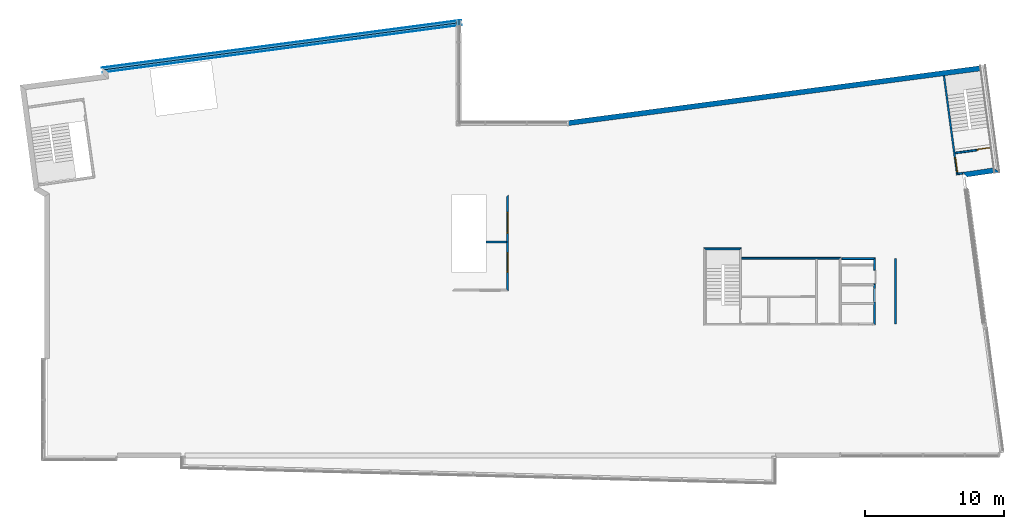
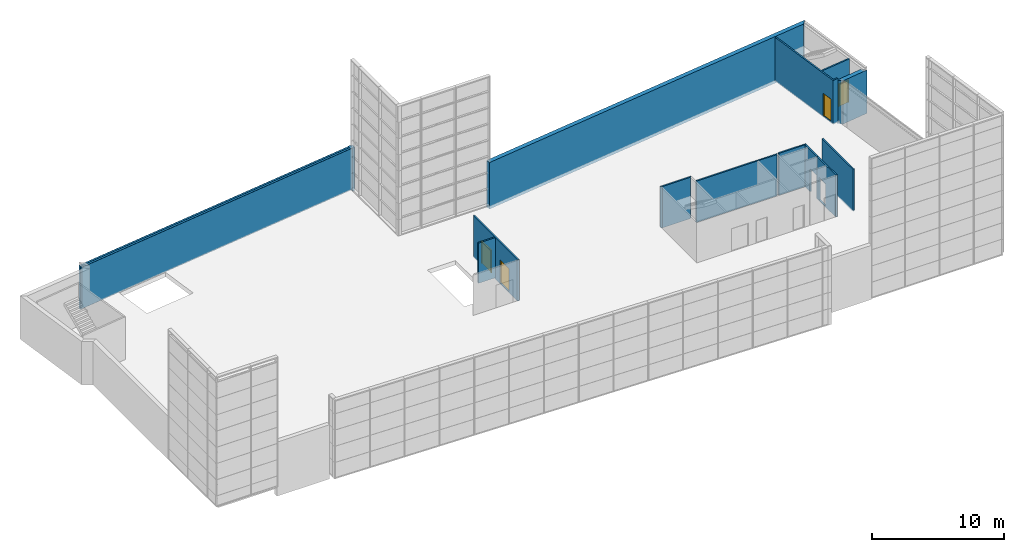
# One storey, part 20 of 27: 13 walls, 6 building element parts, 4 doors, 6 openings, 2 elements without a shape of their own.
"""IFC2X3 building model written with IfcOpenShell, lengths in metres."""

from ifc_helpers import new_model, entity, si_unit, converted_unit, money_unit, direction, frame, origin_with_axes, origin_2d_with_axis, place, context, subcontext, project, spatial, polyline, rectangle, outline, extrude, faceted_brep, source, transform, mapped, material, material_list, layer, layer_set, layer_usage, type_object, element, fill, aggregate, save


model = new_model("IFC2X3")

# Units and contexts
model_context = context("Model", 3, precision=1e-05, world=origin_with_axes(), true_north=direction((0.0, 1.0)))
body_context = subcontext(model_context, "Body", "Model", "MODEL_VIEW")
ifc_project = project(units=[si_unit("LENGTHUNIT", "METRE"), si_unit("AREAUNIT", "SQUARE_METRE"), si_unit("VOLUMEUNIT", "CUBIC_METRE"), converted_unit("PLANEANGLEUNIT", "DEGREE", entity("IfcPlaneAngleMeasure", 0.0174532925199), si_unit("PLANEANGLEUNIT", "RADIAN"), dimensions=[0, 0, 0, 0, 0, 0, 0]), si_unit("SOLIDANGLEUNIT", "STERADIAN"), money_unit("EUR"), converted_unit("TIMEUNIT", "Year", entity("IfcTimeMeasure", 31556926.0), si_unit("TIMEUNIT", "SECOND"), dimensions=[0, 0, 0, 0, 0, 0, 0]), si_unit("MASSUNIT", "GRAM"), si_unit("THERMODYNAMICTEMPERATUREUNIT", "DEGREE_CELSIUS"), si_unit("LUMINOUSINTENSITYUNIT", "LUMEN")], contexts=[model_context])

# Site, building, storey
site_placement = place(None, origin_with_axes())
site = spatial("IfcSite", under=ifc_project, at=site_placement, Name="Undefined", CompositionType="ELEMENT")
building_placement = place(site_placement, origin_with_axes())
building = spatial("IfcBuilding", under=site, at=building_placement, Name="Undefined", CompositionType="ELEMENT")
storey_placement = place(building_placement, frame((0.0, 0.0, 5.4), z_axis=(0.0, 0.0, 1.0), x_axis=(1.0, 0.0, 0.0)))
storey = spatial("IfcBuildingStorey", under=building, at=storey_placement, Name="R+1", CompositionType="ELEMENT", Elevation=5.4)

# Wall, opening, door
ifc_material_1 = material(Name="Finition int - Enduit pl\x89tre")
ifc_layer_1 = layer(ifc_material_1, 0.015, ventilated="UNKNOWN")
ifc_material_2 = material(Name="Struct. - Parpaing b\x8eton")
ifc_layer_2 = layer(ifc_material_2, 0.1, ventilated="UNKNOWN")
ifc_layer_3 = layer(ifc_material_1, 0.015, ventilated="UNKNOWN")
ifc_layer_set_1 = layer_set([ifc_layer_1, ifc_layer_2, ifc_layer_3], Name="0.0-Cloison: parpaing + pl\x89tre 2 faces copie")
ifc_layer_usage_1 = layer_usage(ifc_layer_set_1, "AXIS2", "POSITIVE", 0.0)
wall_type_1 = type_object("IfcWallType", Name="0.0-Cloison: parpaing + pl\x89tre 2 faces copie 130", PredefinedType="NOTDEFINED")
wall_1_placement = place(storey_placement, frame((65.1767239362, 21.5120958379, -0.1), z_axis=(0.0, 0.0, 1.0), x_axis=(0.99119748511, 0.132391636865, 0.0)))
wall_1 = element("IfcWallStandardCase", 1, at=wall_1_placement, inside=storey, type_object=wall_type_1, material=ifc_layer_usage_1, Name="Wall_Int_02", context=body_context, shape_type="SweptSolid", body=[
    extrude(outline(polyline([(-4.66098839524e-08, 0.0), (2.60368976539, 0.0), (2.60383514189, 0.13), (-4.45700862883e-08, 0.13), (-4.66098839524e-08, 0.0)])), origin_with_axes(), (0.0, 0.0, 1.0), 4.05),
])
opening_1_placement = place(wall_1_placement, frame((2.10370326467, 0.0, 0.0), z_axis=(0.0, 0.0, 1.0), x_axis=(1.0, 0.0, 0.0)))
opening_1 = element("IfcOpeningElement", 2, at=opening_1_placement, cuts=wall_1, Name="DOOR_1000", context=body_context, shape_type="SweptSolid", body=[
    extrude(rectangle(XDim=1.0, YDim=2.1, at=origin_2d_with_axis()), frame((0.0, 0.26, 1.05), z_axis=(0.0, -1.0, 0.0), x_axis=(1.0, 0.0, 0.0)), (0.0, 0.0, 1.0), 0.13),
    extrude(rectangle(XDim=1.0, YDim=2.1, at=origin_2d_with_axis()), frame((0.0, 0.0, 1.05), z_axis=(0.0, 1.0, 0.0), x_axis=(1.0, 0.0, 0.0)), (0.0, 0.0, 1.0), 0.13),
])
ifc_material_3 = material(Name="Background Fill-International")
ifc_material_4 = material(Name="Air Space")
ifc_material_list = material_list([ifc_material_3, ifc_material_4])
door_style_1 = type_object("IfcDoorStyle", Name="IFC Porte - Simple battant", ConstructionType="NOTDEFINED", OperationType="SINGLE_SWING_RIGHT", ParameterTakesPrecedence=True, Sizeable=False)
shared_shape_1 = source(origin_with_axes(), body_context, "Body", "Brep", [
    faceted_brep([(-0.5, 0.0, 0.0), (-0.45, 0.0, 0.0), (-0.45, -0.1, 0.0), (-0.5, -0.1, 0.0), (-0.5, 0.0, 2.1), (0.5, 0.0, 2.1), (0.5, 0.0, 0.0), (0.45, 0.0, 0.0), (0.45, 0.0, 2.05), (-0.45, 0.0, 2.05), (-0.45, -0.1, 2.05), (0.45, -0.1, 2.05), (0.45, -0.1, 0.0), (0.5, -0.1, 0.0), (0.5, -0.1, 2.1), (-0.5, -0.1, 2.1)], [[[0, 1, 2, 3]], [[0, 4, 5, 6, 7, 8, 9, 1]], [[1, 9, 10, 2]], [[3, 2, 10, 11, 12, 13, 14, 15]], [[4, 0, 3, 15]], [[5, 4, 15, 14]], [[6, 5, 14, 13]], [[7, 6, 13, 12]], [[8, 7, 12, 11]], [[9, 8, 11, 10]]]),
    faceted_brep([(0.45, 0.0, 0.0), (0.45, 0.0, 2.05), (0.45, -0.04, 2.05), (0.45, -0.04, 0.0), (-0.45, 0.0, 0.0), (-0.45, 0.0, 2.05), (-0.45, -0.04, 2.05), (-0.45, -0.04, 0.0)], [[[0, 1, 2, 3]], [[0, 4, 5, 1]], [[1, 5, 6, 2]], [[3, 2, 6, 7]], [[4, 0, 3, 7]], [[5, 4, 7, 6]]]),
])
door_1_placement = place(opening_1_placement, frame((-0.5, 0.0, 0.0), z_axis=(0.0, 0.0, 1.0), x_axis=(1.0, 0.0, 0.0)))
door_1 = element("IfcDoor", 3, at=door_1_placement, inside=storey, type_object=door_style_1, material=ifc_material_list, Name="DOOR_1000", ObjectType="DOOR", OverallHeight=2.1, OverallWidth=1.0, context=body_context, shape_type="MappedRepresentation", body=[
    mapped(shared_shape_1, transform((0.5, 0.13, 0.0))),
])
fill(opening_1, door_1)

# Walls
ifc_layer_usage_2 = layer_usage(ifc_layer_set_1, "AXIS2", "POSITIVE", 0.0)
wall_2_placement = place(storey_placement, frame((65.689457, 20.183417, -0.1), z_axis=(0.0, 0.0, 1.0), x_axis=(-0.99056759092, -0.137024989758, 0.0)))
element("IfcWallStandardCase", 4, at=wall_2_placement, inside=storey, type_object=wall_type_1, material=ifc_layer_usage_2, Name="Wall_Int_02", context=body_context, shape_type="SweptSolid", body=[
    extrude(outline(polyline([(0.0, 0.0), (0.332317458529, 0.0), (0.462926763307, 0.13), (0.0, 0.13), (0.0, 0.0)])), origin_with_axes(), (0.0, 0.0, 1.0), 4.05),
])
ifc_layer_usage_3 = layer_usage(ifc_layer_set_1, "AXIS2", "POSITIVE", -0.05)
wall_3_placement = place(storey_placement, frame((60.8842827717, 9.275, -0.1), z_axis=(0.0, 0.0, 1.0), x_axis=(0.0, 1.0, 0.0)))
element("IfcWallStandardCase", 5, at=wall_3_placement, inside=storey, type_object=wall_type_1, material=ifc_layer_usage_3, Name="Wall_Int", context=body_context, shape_type="SweptSolid", body=[
    extrude(outline(polyline([(0.0, -0.05), (4.70000000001, -0.05), (4.70000000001, 0.08), (0.0, 0.08), (0.0, -0.05)])), origin_with_axes(), (0.0, 0.0, 1.0), 3.88499999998),
])

# Wall, opening
ifc_layer_usage_4 = layer_usage(ifc_layer_set_1, "AXIS2", "POSITIVE", -0.05)
wall_4_placement = place(storey_placement, frame((59.375, 9.245, -0.1), z_axis=(0.0, 0.0, 1.0), x_axis=(0.0, 1.0, 0.0)))
wall_4 = element("IfcWallStandardCase", 6, at=wall_4_placement, inside=storey, type_object=wall_type_1, material=ifc_layer_usage_4, Name="VOILE_10CM", context=body_context, shape_type="SweptSolid", body=[
    extrude(outline(polyline([(-0.05, -0.05), (2.86999999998, -0.05), (2.86999999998, 0.08), (0.08, 0.08), (-0.05, -0.05)])), origin_with_axes(), (0.0, 0.0, 1.0), 3.88499999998),
])
opening_2_placement = place(wall_4_placement, frame((2.09347547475, 0.0, 0.06), z_axis=(0.0, 0.0, 1.0), x_axis=(1.0, 0.0, 0.0)))
element("IfcOpeningElement", 7, at=opening_2_placement, cuts=wall_4, Name="DOOR_1000", context=body_context, shape_type="SweptSolid", body=[
    extrude(rectangle(XDim=1.0, YDim=2.1, at=origin_2d_with_axis()), frame((0.0, 0.13, 1.05), z_axis=(0.0, -1.0, 0.0), x_axis=(-1.0, 0.0, 0.0)), (0.0, 0.0, 1.0), 0.39),
    extrude(rectangle(XDim=1.02, YDim=2.11, at=origin_2d_with_axis()), frame((0.0, 0.21, 1.055), z_axis=(0.0, -1.0, 0.0), x_axis=(-1.0, 0.0, 0.0)), (0.0, 0.0, 1.0), 0.13),
    extrude(rectangle(XDim=1.02, YDim=2.11, at=origin_2d_with_axis()), frame((0.0, -0.18, 1.055), z_axis=(0.0, 1.0, 0.0), x_axis=(-1.0, 0.0, 0.0)), (0.0, 0.0, 1.0), 0.13),
])

# Wall, opening, door
ifc_layer_usage_5 = layer_usage(ifc_layer_set_1, "AXIS2", "POSITIVE", 0.0)
wall_5_placement = place(storey_placement, frame((65.3602740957, 20.1378812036, -0.1), z_axis=(0.0, 0.0, 1.0), x_axis=(-0.132391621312, 0.991197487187, 0.0)))
wall_5 = element("IfcWallStandardCase", 8, at=wall_5_placement, inside=storey, type_object=wall_type_1, material=ifc_layer_usage_5, Name="Wall_Int_02", context=body_context, shape_type="SweptSolid", body=[
    extrude(outline(polyline([(0.0, 0.0), (7.06627218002, 0.0), (7.06635923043, 0.13), (-0.130609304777, 0.13), (0.0, 0.0)])), origin_with_axes(), (0.0, 0.0, 1.0), 4.05),
])
opening_3_placement = place(wall_5_placement, frame((0.600716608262, 0.0, 0.1), z_axis=(0.0, 0.0, 1.0), x_axis=(1.0, 0.0, 0.0)))
opening_3 = element("IfcOpeningElement", 9, at=opening_3_placement, cuts=wall_5, Name="DOOR_1000", context=body_context, shape_type="SweptSolid", body=[
    extrude(rectangle(XDim=1.0, YDim=2.1, at=origin_2d_with_axis()), frame((0.0, -0.13, 1.05), z_axis=(0.0, 1.0, 0.0), x_axis=(1.0, 0.0, 0.0)), (0.0, 0.0, 1.0), 0.13),
    extrude(rectangle(XDim=1.0, YDim=2.1, at=origin_2d_with_axis()), frame((0.0, 0.13, 1.05), z_axis=(0.0, -1.0, 0.0), x_axis=(1.0, 0.0, 0.0)), (0.0, 0.0, 1.0), 0.13),
])
door_style_2 = type_object("IfcDoorStyle", Name="IFC Porte - Simple battant", ConstructionType="NOTDEFINED", OperationType="SINGLE_SWING_RIGHT", ParameterTakesPrecedence=True, Sizeable=False)
door_2_placement = place(opening_3_placement, frame((0.5, 0.0, 0.0), z_axis=(0.0, 0.0, 1.0), x_axis=(-1.0, 0.0, 0.0)))
door_2 = element("IfcDoor", 10, at=door_2_placement, inside=storey, type_object=door_style_2, material=ifc_material_list, Name="DOOR_1000", ObjectType="DOOR", OverallHeight=2.1, OverallWidth=1.0, context=body_context, shape_type="MappedRepresentation", body=[
    mapped(shared_shape_1, transform((0.5, 0.0, 0.0))),
])
fill(opening_3, door_2)

# Walls
ifc_layer_usage_6 = layer_usage(ifc_layer_set_1, "AXIS2", "POSITIVE", 0.0)
wall_6_placement = place(storey_placement, frame((47.085, 14.6097478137, -0.1), z_axis=(0.0, 0.0, 1.0), x_axis=(0.999999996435, 8.44412871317e-05, 0.0)))
element("IfcWallStandardCase", 11, at=wall_6_placement, inside=storey, type_object=wall_type_1, material=ifc_layer_usage_6, Name="Wall_Int_02", context=body_context, shape_type="SweptSolid", body=[
    extrude(outline(polyline([(0.130000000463, 0.0), (2.57499999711, 0.0), (2.70501097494, 0.13), (1.09773673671e-05, 0.13), (0.130000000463, 0.0)])), origin_with_axes(), (0.0, 0.0, 1.0), 3.825),
])
ifc_layer_usage_7 = layer_usage(ifc_layer_set_1, "AXIS2", "POSITIVE", 0.0)
wall_7_placement = place(storey_placement, frame((49.6599999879, 13.935, -0.1), z_axis=(0.0, 0.0, 1.0), x_axis=(1.0, 0.0, 0.0)))
element("IfcWallStandardCase", 12, at=wall_7_placement, inside=storey, type_object=wall_type_1, material=ifc_layer_usage_7, Name="Wall_Int_02", context=body_context, shape_type="SweptSolid", body=[
    extrude(outline(polyline([(0.13, 0.0), (7.17500001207, 0.0), (7.30500001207, 0.13), (0.13, 0.13), (0.13, 0.0)])), origin_with_axes(), (0.0, 0.0, 1.0), 3.825),
])
ifc_layer_usage_8 = layer_usage(ifc_layer_set_1, "AXIS2", "NEGATIVE", 0.0)
wall_8_placement = place(storey_placement, frame((33.0137357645, 15.100969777, 0.0), z_axis=(0.0, 0.0, 1.0), x_axis=(-1.0, 0.0, 0.0)))
element("IfcWallStandardCase", 13, at=wall_8_placement, inside=storey, type_object=wall_type_1, material=ifc_layer_usage_8, Name="Wall_Int_02", ObjectType="WALL", context=body_context, shape_type="SweptSolid", body=[
    extrude(outline(polyline([(0.13, -0.13), (1.59497213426, -0.13), (1.59497213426, 0.0), (0.13, 0.0), (0.13, -0.13)])), origin_with_axes(), (0.0, 0.0, 1.0), 3.725),
])

# Wall, openings, doors
ifc_layer_usage_9 = layer_usage(ifc_layer_set_1, "AXIS2", "NEGATIVE", 0.0)
wall_9_placement = place(storey_placement, frame((33.0137357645, 18.4900686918, -0.1), z_axis=(0.0, 0.0, 1.0), x_axis=(0.0, -1.0, 0.0)))
wall_9 = element("IfcWallStandardCase", 14, at=wall_9_placement, inside=storey, type_object=wall_type_1, material=ifc_layer_usage_9, Name="Wall_Int_02", ObjectType="WALL", context=body_context, shape_type="SweptSolid", body=[
    extrude(outline(polyline([(0.065, -0.13), (6.71514607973, -0.13), (6.84514607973, 0.0), (-0.065, 0.0), (0.065, -0.13)])), origin_with_axes(), (0.0, 0.0, 1.0), 3.825),
])
opening_4_placement = place(wall_9_placement, frame((4.79308734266, 0.0, 0.1), z_axis=(0.0, 0.0, 1.0), x_axis=(1.0, 0.0, 0.0)))
opening_4 = element("IfcOpeningElement", 15, at=opening_4_placement, cuts=wall_9, Name="DOOR", context=body_context, shape_type="SweptSolid", body=[
    extrude(rectangle(XDim=1.39591901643, YDim=2.1, at=origin_2d_with_axis()), frame((0.0, 0.13, 1.05), z_axis=(0.0, -1.0, 0.0), x_axis=(1.0, 0.0, 0.0)), (0.0, 0.0, 1.0), 0.13),
    extrude(rectangle(XDim=1.39591901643, YDim=2.1, at=origin_2d_with_axis()), frame((0.0, -0.13, 1.05), z_axis=(0.0, 1.0, 0.0), x_axis=(1.0, 0.0, 0.0)), (0.0, 0.0, 1.0), 0.13),
])
opening_5_placement = place(wall_9_placement, frame((1.93098138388, 0.0, 0.1), z_axis=(0.0, 0.0, 1.0), x_axis=(1.0, 0.0, 0.0)))
opening_5 = element("IfcOpeningElement", 16, at=opening_5_placement, cuts=wall_9, Name="DOOR", context=body_context, shape_type="SweptSolid", body=[
    extrude(rectangle(XDim=1.5, YDim=2.1, at=origin_2d_with_axis()), frame((0.0, 0.13, 1.05), z_axis=(0.0, -1.0, 0.0), x_axis=(1.0, 0.0, 0.0)), (0.0, 0.0, 1.0), 0.13),
    extrude(rectangle(XDim=1.5, YDim=2.1, at=origin_2d_with_axis()), frame((0.0, -0.13, 1.05), z_axis=(0.0, 1.0, 0.0), x_axis=(1.0, 0.0, 0.0)), (0.0, 0.0, 1.0), 0.13),
])
door_style_3 = type_object("IfcDoorStyle", Name="IFC Porte double - Simple battant", ConstructionType="ALUMINIUM", OperationType="DOUBLE_DOOR_SINGLE_SWING", ParameterTakesPrecedence=True, Sizeable=False)
shared_shape_2 = source(origin_with_axes(), body_context, "Body", "Brep", [
    faceted_brep([(0.75, 0.0, 0.0), (0.75, -0.1, 0.0), (0.7, -0.1, 0.0), (0.7, 0.0, 0.0), (0.75, 0.0, 2.1), (0.75, -0.1, 2.1), (-0.75, -0.1, 2.1), (-0.75, -0.1, 0.0), (-0.7, -0.1, 0.0), (-0.7, -0.1, 2.05), (0.7, -0.1, 2.05), (0.7, 0.0, 2.05), (-0.7, 0.0, 2.05), (-0.7, 0.0, 0.0), (-0.75, 0.0, 0.0), (-0.75, 0.0, 2.1)], [[[0, 1, 2, 3]], [[4, 5, 1, 0]], [[1, 5, 6, 7, 8, 9, 10, 2]], [[3, 2, 10, 11]], [[0, 3, 11, 12, 13, 14, 15, 4]], [[15, 6, 5, 4]], [[14, 7, 6, 15]], [[13, 8, 7, 14]], [[12, 9, 8, 13]], [[11, 10, 9, 12]]]),
    faceted_brep([(-0.7, 0.0, 0.0), (-0.7, -0.04, 0.0), (-0.7, -0.04, 2.05), (-0.7, 0.0, 2.05), (0.0, 0.0, 0.0), (0.0, -0.04, 0.0), (0.0, -0.04, 2.05), (0.0, 0.0, 2.05)], [[[0, 1, 2, 3]], [[4, 5, 1, 0]], [[1, 5, 6, 2]], [[3, 2, 6, 7]], [[0, 3, 7, 4]], [[7, 6, 5, 4]]]),
    faceted_brep([(0.7, 0.0, 0.0), (0.7, -0.04, 0.0), (0.0, -0.04, 0.0), (0.0, 0.0, 0.0), (0.7, 0.0, 2.05), (0.7, -0.04, 2.05), (0.0, -0.04, 2.05), (0.0, 0.0, 2.05)], [[[0, 1, 2, 3]], [[4, 5, 1, 0]], [[1, 5, 6, 2]], [[3, 2, 6, 7]], [[0, 3, 7, 4]], [[7, 6, 5, 4]]]),
])
door_3_placement = place(opening_5_placement, frame((-0.75, 0.0, 0.0), z_axis=(0.0, 0.0, 1.0), x_axis=(1.0, 0.0, 0.0)))
door_3 = element("IfcDoor", 17, at=door_3_placement, inside=storey, type_object=door_style_3, material=ifc_material_list, Name="DOOR", ObjectType="DOOR", OverallHeight=2.1, OverallWidth=1.5, context=body_context, shape_type="MappedRepresentation", body=[
    mapped(shared_shape_2, transform((0.75, 0.0, 0.0))),
])
fill(opening_5, door_3)
shared_shape_3 = source(origin_with_axes(), body_context, "Body", "Brep", [
    faceted_brep([(0.697959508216, 0.0, 0.0), (0.697959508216, -0.1, 0.0), (0.647959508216, -0.1, 0.0), (0.647959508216, 0.0, 0.0), (0.697959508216, 0.0, 2.1), (0.697959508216, -0.1, 2.1), (-0.697959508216, -0.1, 2.1), (-0.697959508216, -0.1, 0.0), (-0.647959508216, -0.1, 0.0), (-0.647959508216, -0.1, 2.05), (0.647959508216, -0.1, 2.05), (0.647959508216, 0.0, 2.05), (-0.647959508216, 0.0, 2.05), (-0.647959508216, 0.0, 0.0), (-0.697959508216, 0.0, 0.0), (-0.697959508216, 0.0, 2.1)], [[[0, 1, 2, 3]], [[4, 5, 1, 0]], [[1, 5, 6, 7, 8, 9, 10, 2]], [[3, 2, 10, 11]], [[0, 3, 11, 12, 13, 14, 15, 4]], [[15, 6, 5, 4]], [[14, 7, 6, 15]], [[13, 8, 7, 14]], [[12, 9, 8, 13]], [[11, 10, 9, 12]]]),
    faceted_brep([(-0.647959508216, 0.0, 0.0), (-0.647959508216, -0.04, 0.0), (-0.647959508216, -0.04, 2.05), (-0.647959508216, 0.0, 2.05), (0.0, 0.0, 0.0), (0.0, -0.04, 0.0), (0.0, -0.04, 2.05), (0.0, 0.0, 2.05)], [[[0, 1, 2, 3]], [[4, 5, 1, 0]], [[1, 5, 6, 2]], [[3, 2, 6, 7]], [[0, 3, 7, 4]], [[7, 6, 5, 4]]]),
    faceted_brep([(0.647959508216, 0.0, 0.0), (0.647959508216, -0.04, 0.0), (0.0, -0.04, 0.0), (0.0, 0.0, 0.0), (0.647959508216, 0.0, 2.05), (0.647959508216, -0.04, 2.05), (0.0, -0.04, 2.05), (0.0, 0.0, 2.05)], [[[0, 1, 2, 3]], [[4, 5, 1, 0]], [[1, 5, 6, 2]], [[3, 2, 6, 7]], [[0, 3, 7, 4]], [[7, 6, 5, 4]]]),
])
door_4_placement = place(opening_4_placement, frame((-0.697959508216, 0.0, 0.0), z_axis=(0.0, 0.0, 1.0), x_axis=(1.0, 0.0, 0.0)))
door_4 = element("IfcDoor", 18, at=door_4_placement, inside=storey, type_object=door_style_3, material=ifc_material_list, Name="DOOR", ObjectType="DOOR", OverallHeight=2.1, OverallWidth=1.39592, context=body_context, shape_type="MappedRepresentation", body=[
    mapped(shared_shape_3, transform((0.697959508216, 0.0, 0.0))),
])
fill(opening_4, door_4)

# Wall
ifc_layer_usage_10 = layer_usage(ifc_layer_set_1, "AXIS2", "POSITIVE", -0.05)
wall_10_placement = place(storey_placement, frame((59.375, 13.99, -0.1), z_axis=(0.0, 0.0, 1.0), x_axis=(-1.0, 0.0, 0.0)))
element("IfcWallStandardCase", 19, at=wall_10_placement, inside=storey, type_object=wall_type_1, material=ifc_layer_usage_10, Name="VOILE_10CM", context=body_context, shape_type="SweptSolid", body=[
    extrude(outline(polyline([(-0.05, -0.05), (2.36, -0.05), (2.36, 0.08), (0.08, 0.08), (-0.05, -0.05)])), origin_with_axes(), (0.0, 0.0, 1.0), 3.88499999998),
])

# Wall, opening
ifc_layer_usage_11 = layer_usage(ifc_layer_set_1, "AXIS2", "POSITIVE", -0.05)
wall_11_placement = place(storey_placement, frame((59.375, 12.115, -0.1), z_axis=(0.0, 0.0, 1.0), x_axis=(0.0, 1.0, 0.0)))
wall_11 = element("IfcWallStandardCase", 20, at=wall_11_placement, inside=storey, type_object=wall_type_1, material=ifc_layer_usage_11, Name="Wall_Int_05", context=body_context, shape_type="SweptSolid", body=[
    extrude(outline(polyline([(0.0, -0.05), (1.92500000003, -0.05), (1.79500000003, 0.08), (0.0, 0.08), (0.0, -0.05)])), origin_with_axes(), (0.0, 0.0, 1.0), 3.88499999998),
])
opening_6_placement = place(wall_11_placement, frame((0.535, 0.0, 0.0), z_axis=(0.0, 0.0, 1.0), x_axis=(1.0, 0.0, 0.0)))
element("IfcOpeningElement", 21, at=opening_6_placement, cuts=wall_11, Name="DOOR_1000", context=body_context, shape_type="SweptSolid", body=[
    extrude(rectangle(XDim=1.0, YDim=2.1, at=origin_2d_with_axis()), frame((0.0, 0.13, 1.05), z_axis=(0.0, -1.0, 0.0), x_axis=(-1.0, 0.0, 0.0)), (0.0, 0.0, 1.0), 0.39),
    extrude(rectangle(XDim=1.0, YDim=0.105069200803, at=origin_2d_with_axis()), frame((0.0, -0.18, -0.0525346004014), z_axis=(0.0, 1.0, 0.0), x_axis=(-1.0, 0.0, 0.0)), (0.0, 0.0, 1.0), 0.167364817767),
    extrude(rectangle(XDim=1.02, YDim=2.11, at=origin_2d_with_axis()), frame((0.0, 0.21, 1.055), z_axis=(0.0, -1.0, 0.0), x_axis=(-1.0, 0.0, 0.0)), (0.0, 0.0, 1.0), 0.13),
    extrude(rectangle(XDim=1.02, YDim=2.2150692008, at=origin_2d_with_axis()), frame((0.0, -0.18, 1.0024653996), z_axis=(0.0, 1.0, 0.0), x_axis=(-1.0, 0.0, 0.0)), (0.0, 0.0, 1.0), 0.13),
])

# Walls
ifc_material_5 = material(Name="Finition ext - Cr\x8epis")
ifc_layer_4 = layer(ifc_material_5, 0.015, ventilated="UNKNOWN")
ifc_material_6 = material(Name="Isolation - Fibres de bois")
ifc_layer_5 = layer(ifc_material_6, 0.16, ventilated="UNKNOWN")
ifc_material_7 = material(Name="Struct. - B.A. banch\x8e")
ifc_layer_6 = layer(ifc_material_7, 0.18, ventilated="UNKNOWN")
ifc_layer_7 = layer(ifc_material_1, 0.015, ventilated="UNKNOWN")
ifc_layer_set_2 = layer_set([ifc_layer_4, ifc_layer_5, ifc_layer_6, ifc_layer_7], Name="1.2-Mur ext: rev\x8et ext + isol ext + ma\x8donnerie + enduit")
ifc_layer_usage_12 = layer_usage(ifc_layer_set_2, "AXIS2", "POSITIVE", 0.0)
wall_type_2 = type_object("IfcWallType", Name="1.2-Mur ext: rev\x8et ext + isol ext + ma\x8donnerie + enduit 370", PredefinedType="NOTDEFINED")
wall_12_placement = place(storey_placement, frame((66.0224440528, 19.8578230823, -0.28), z_axis=(0.0, 0.0, 1.0), x_axis=(0.989654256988, 0.143472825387, 0.0)))
element("IfcWallStandardCase", 22, at=wall_12_placement, inside=storey, type_object=wall_type_2, material=ifc_layer_usage_12, Name="ExtWall_01", ObjectType="WALL", context=body_context, shape_type="SweptSolid", body=[
    extrude(outline(polyline([(0.0, 0.0), (2.352644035, 0.0), (1.98716963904, 0.37), (-0.282828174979, 0.37), (0.0, 0.0)])), origin_with_axes(), (0.0, 0.0, 1.0), 4.005),
])
ifc_layer_usage_13 = layer_usage(ifc_layer_set_2, "AXIS2", "POSITIVE", 0.0)
wall_13_placement = place(storey_placement, frame((67.3302558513, 27.9013044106, -0.28), z_axis=(0.0, 0.0, 1.0), x_axis=(-0.991285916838, -0.131727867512, 0.0)))
element("IfcWallStandardCase", 23, at=wall_13_placement, inside=storey, type_object=wall_type_2, material=ifc_layer_usage_13, Name="WallEx02", ObjectType="WALL", context=body_context, shape_type="SweptSolid", body=[
    extrude(outline(polyline([(0.0, 0.0), (30.4020162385, 0.0), (30.4020162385, 0.37), (0.370166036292, 0.37), (0.0, 0.0)])), origin_with_axes(), (0.0, 0.0, 1.0), 4.305),
])

# Wall, building element parts
wall_type_3 = type_object("IfcWallType", Name="Profil personnalis\x8e 370 x 4005", PredefinedType="NOTDEFINED")
wall_14_placement = place(storey_placement, frame((29.6202598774, 31.1461094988, -0.28), z_axis=(0.0, 0.0, 1.0), x_axis=(-0.991347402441, -0.131264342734, 0.0)))
wall_14 = element("IfcWall", 24, at=wall_14_placement, inside=storey, type_object=wall_type_3, Name="WallEx02", ObjectType="WALL")
building_element_part_1_placement = place(wall_14_placement, origin_with_axes())
building_element_part_1 = element("IfcBuildingElementPart", 25, at=building_element_part_1_placement, material=ifc_material_5, context=body_context, shape_type="SweptSolid", body=[
    extrude(outline(polyline([(-0.015, 0.0), (0.0, 0.0), (0.0, 4.005), (-0.015, 4.005), (-0.015, 0.0)])), frame((0.0, 0.0, 0.0), z_axis=(-1.0, 0.0, 0.0), x_axis=(0.0, -1.0, 0.0)), (0.0, 0.0, -1.0), 26.0743044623),
])
building_element_part_2_placement = place(wall_14_placement, origin_with_axes())
building_element_part_2 = element("IfcBuildingElementPart", 26, at=building_element_part_2_placement, material=ifc_material_6, context=body_context, shape_type="SweptSolid", body=[
    extrude(outline(polyline([(-0.175, 0.0), (-0.015, 0.0), (-0.015, 4.005), (-0.175, 4.005), (-0.175, 0.0)])), frame((0.0, 0.0, 0.0), z_axis=(-1.0, 0.0, 0.0), x_axis=(0.0, -1.0, 0.0)), (0.0, 0.0, -1.0), 26.0743044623),
])
building_element_part_3_placement = place(wall_14_placement, origin_with_axes())
building_element_part_3 = element("IfcBuildingElementPart", 27, at=building_element_part_3_placement, material=ifc_material_7, context=body_context, shape_type="SweptSolid", body=[
    extrude(outline(polyline([(-0.355, 0.18), (-0.175, 0.18), (-0.175, 4.005), (-0.355, 4.005), (-0.355, 0.18)])), frame((0.0, 0.0, 0.0), z_axis=(-1.0, 0.0, 0.0), x_axis=(0.0, -1.0, 0.0)), (0.0, 0.0, -1.0), 26.0743044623),
])
building_element_part_4_placement = place(wall_14_placement, origin_with_axes())
building_element_part_4 = element("IfcBuildingElementPart", 28, at=building_element_part_4_placement, material=ifc_material_1, context=body_context, shape_type="SweptSolid", body=[
    extrude(outline(polyline([(-0.37, 0.18), (-0.355, 0.18), (-0.355, 4.005), (-0.37, 4.005), (-0.37, 0.18)])), frame((0.0, 0.0, 0.0), z_axis=(-1.0, 0.0, 0.0), x_axis=(0.0, -1.0, 0.0)), (0.0, 0.0, -1.0), 26.0743044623),
])
aggregate(wall_14, [building_element_part_1, building_element_part_2, building_element_part_3, building_element_part_4])

wall_15_placement = place(storey_placement, frame((29.6202598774, 31.1461094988, -0.28), z_axis=(0.0, 0.0, 1.0), x_axis=(0.0, -1.0, 0.0)))
wall_15 = element("IfcWall", 29, at=wall_15_placement, inside=storey, type_object=wall_type_3, Name="WallEx02", ObjectType="WALL")
building_element_part_5_placement = place(wall_15_placement, origin_with_axes())
building_element_part_5 = element("IfcBuildingElementPart", 30, at=building_element_part_5_placement, material=ifc_material_6, context=body_context, shape_type="SweptSolid", body=[
    extrude(outline(polyline([(-0.175, 0.0), (-0.015, 0.0), (-0.015, 4.005), (-0.175, 4.005), (-0.175, 0.0)])), frame((0.0, 0.0, 0.0), z_axis=(1.0, 0.0, 0.0), x_axis=(0.0, 1.0, 0.0)), (0.0, 0.0, 1.0), 0.396729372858),
])
building_element_part_6_placement = place(wall_15_placement, origin_with_axes())
building_element_part_6 = element("IfcBuildingElementPart", 31, at=building_element_part_6_placement, material=ifc_material_7, context=body_context, shape_type="SweptSolid", body=[
    extrude(outline(polyline([(-0.355, 0.18), (-0.175, 0.18), (-0.175, 4.005), (-0.355, 4.005), (-0.355, 0.18)])), frame((0.0, 0.0, 0.0), z_axis=(1.0, 0.0, 0.0), x_axis=(0.0, 1.0, 0.0)), (0.0, 0.0, 1.0), 0.396729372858),
])
aggregate(wall_15, [building_element_part_5, building_element_part_6])

save(model, "model.ifc")
